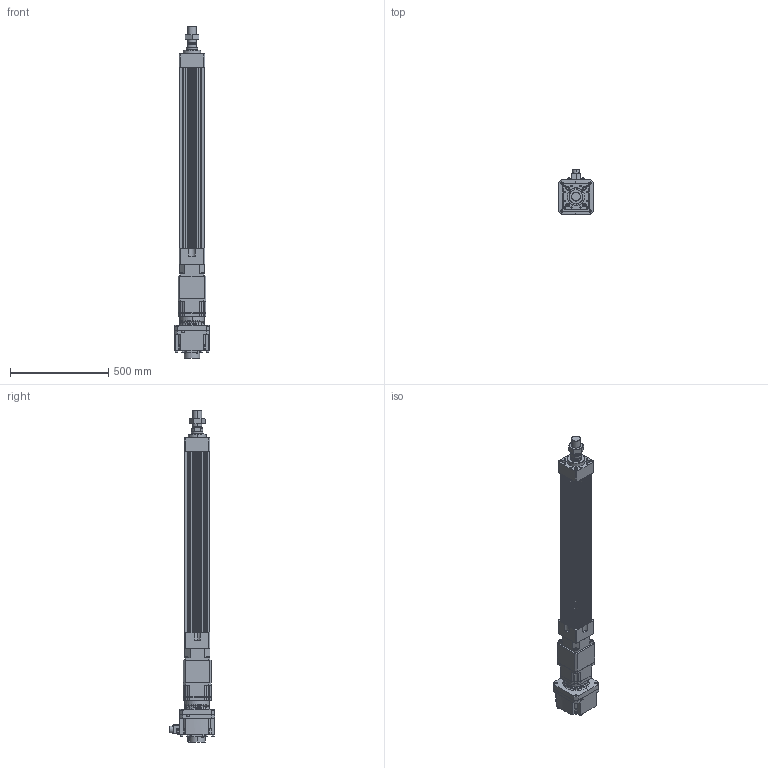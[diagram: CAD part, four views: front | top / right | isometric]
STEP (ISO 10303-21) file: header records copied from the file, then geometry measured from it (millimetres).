
FILE_DESCRIPTION (( 'STEP AP203' ), '1' );
FILE_NAME ('HES130FS(HS)-S700-W020G00-M.STEP', '2023-01-30T12:03:51', ( 'tms' ), ( '' ), 'SwSTEP 2.0', 'SolidWorks 2013', '' );
FILE_SCHEMA (( 'CONFIG_CONTROL_DESIGN' ));
Length unit declared in the file: millimetre
Products named in the file (9): P0403500801; P1301500001; AB142-003[HG-SR352]; M45X1.5P; HES130-S700-G142; HES130FS(HS)-S700-W020G00-M; HES130 ROD M ST700; AB1421; HG-SR202
Assembly tree (8 placements, depth 3):
  HES130FS(HS)-S700-W020G00-M
    HES130-S700-G142
    HES130 ROD M ST700
    M45X1.5P
    AB142-003[HG-SR352]
      AB1421
      P1301500001
      P0403500801
    HG-SR202
Bounding box: 176 x 228.85 x 1687.5 mm (x, y, z)
Volume: 14550378.1 mm3; surface area: 1925102.6 mm2
Topology: 4 solids, 22 shells, 1527 faces, 3928 edges, 2530 vertices
Faces by surface type: cylinder 683, plane 580, cone 182, bspline 76, torus 6
Entity records: 55214 total; most frequent: CARTESIAN_POINT 16756, DIRECTION 8052, ORIENTED_EDGE 7718, EDGE_CURVE 3881, AXIS2_PLACEMENT_3D 3043, VERTEX_POINT 2530, VECTOR 1966, LINE 1966
